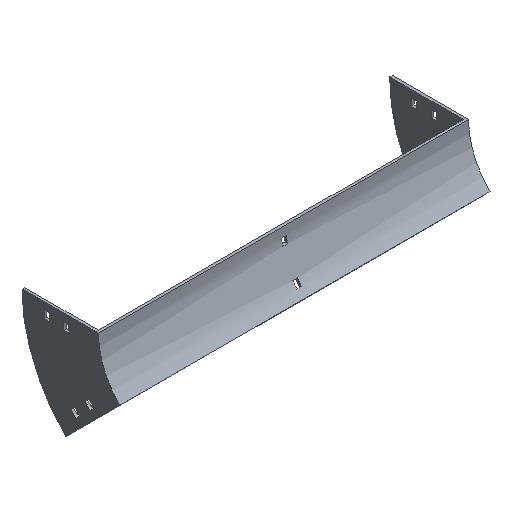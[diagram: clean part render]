
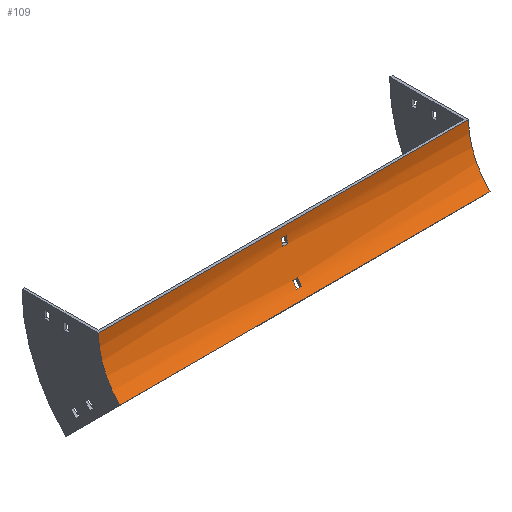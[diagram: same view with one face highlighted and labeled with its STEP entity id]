
A CAD part, isometric view. The second image highlights one B-rep face of the part: STEP entity #109.
In plain terms, the highlighted cylindrical face has radius 100 mm (diameter 200 mm), a partial arc.
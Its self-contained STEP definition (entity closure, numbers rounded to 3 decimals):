
#19 = EDGE_CURVE ( 'NONE', #1393, #1682, #462, .T. ) ;
#38 = AXIS2_PLACEMENT_3D ( 'NONE', #177, #719, #184 ) ;
#49 = CARTESIAN_POINT ( 'NONE',  ( 3.25, -0.723, -12. ) ) ;
#54 = DIRECTION ( 'NONE',  ( -1., 0., 0. ) ) ;
#56 = VERTEX_POINT ( 'NONE', #71 ) ;
#71 = CARTESIAN_POINT ( 'NONE',  ( 3.25, -21.315, -61.714 ) ) ;
#72 = CARTESIAN_POINT ( 'NONE',  ( 3.25, -100., 0. ) ) ;
#108 = DIRECTION ( 'NONE',  ( 0., 0., -1. ) ) ;
#109 = ADVANCED_FACE ( 'NONE', ( #1365, #320, #190 ), #591, .F. ) ;
#125 = EDGE_CURVE ( 'NONE', #1682, #1563, #1361, .T. ) ;
#138 = EDGE_LOOP ( 'NONE', ( #1105, #1226, #675, #1428 ) ) ;
#149 = VECTOR ( 'NONE', #1297, 1000. ) ;
#174 = AXIS2_PLACEMENT_3D ( 'NONE', #1343, #516, #830 ) ;
#176 = CARTESIAN_POINT ( 'NONE',  ( 252., -21.315, -61.714 ) ) ;
#177 = CARTESIAN_POINT ( 'NONE',  ( 252., -100., 0. ) ) ;
#184 = DIRECTION ( 'NONE',  ( 0., 0., 1. ) ) ;
#190 = FACE_BOUND ( 'NONE', #1441, .T. ) ;
#233 = LINE ( 'NONE', #780, #149 ) ;
#256 = CIRCLE ( 'NONE', #1289, 100. ) ;
#268 = VERTEX_POINT ( 'NONE', #1247 ) ;
#270 = EDGE_CURVE ( 'NONE', #425, #687, #331, .T. ) ;
#284 = CIRCLE ( 'NONE', #1471, 100. ) ;
#320 = FACE_BOUND ( 'NONE', #685, .T. ) ;
#326 = ORIENTED_EDGE ( 'NONE', *, *, #833, .F. ) ;
#331 = LINE ( 'NONE', #1392, #887 ) ;
#342 = CARTESIAN_POINT ( 'NONE',  ( 252., 0., 0. ) ) ;
#361 = DIRECTION ( 'NONE',  ( -1., 0., 0. ) ) ;
#370 = VERTEX_POINT ( 'NONE', #342 ) ;
#425 = VERTEX_POINT ( 'NONE', #1010 ) ;
#442 = CARTESIAN_POINT ( 'NONE',  ( 3.25, -2.23, -21. ) ) ;
#462 = LINE ( 'NONE', #543, #937 ) ;
#508 = ORIENTED_EDGE ( 'NONE', *, *, #1420, .T. ) ;
#516 = DIRECTION ( 'NONE',  ( -1., 0., 0. ) ) ;
#535 = EDGE_CURVE ( 'NONE', #370, #948, #1047, .T. ) ;
#543 = CARTESIAN_POINT ( 'NONE',  ( 252., -2.23, -21. ) ) ;
#551 = VERTEX_POINT ( 'NONE', #791 ) ;
#570 = EDGE_CURVE ( 'NONE', #370, #551, #233, .T. ) ;
#591 = CYLINDRICAL_SURFACE ( 'NONE', #38, 100. ) ;
#598 = ORIENTED_EDGE ( 'NONE', *, *, #19, .T. ) ;
#607 = DIRECTION ( 'NONE',  ( 1., 0., 0. ) ) ;
#618 = CARTESIAN_POINT ( 'NONE',  ( 252., -100., 0. ) ) ;
#630 = EDGE_CURVE ( 'NONE', #551, #268, #805, .T. ) ;
#669 = EDGE_CURVE ( 'NONE', #687, #732, #284, .T. ) ;
#675 = ORIENTED_EDGE ( 'NONE', *, *, #535, .F. ) ;
#685 = EDGE_LOOP ( 'NONE', ( #598, #1549, #508, #941 ) ) ;
#686 = ORIENTED_EDGE ( 'NONE', *, *, #669, .F. ) ;
#687 = VERTEX_POINT ( 'NONE', #1456 ) ;
#719 = DIRECTION ( 'NONE',  ( -1., 0., 0. ) ) ;
#732 = VERTEX_POINT ( 'NONE', #1069 ) ;
#740 = ORIENTED_EDGE ( 'NONE', *, *, #1370, .F. ) ;
#780 = CARTESIAN_POINT ( 'NONE',  ( 252., 0., 0. ) ) ;
#791 = CARTESIAN_POINT ( 'NONE',  ( -252., 0., 0. ) ) ;
#805 = CIRCLE ( 'NONE', #174, 100. ) ;
#808 = DIRECTION ( 'NONE',  ( -1., 0., 0. ) ) ;
#817 = CARTESIAN_POINT ( 'NONE',  ( 252., -29.289, -70.711 ) ) ;
#830 = DIRECTION ( 'NONE',  ( 0., 0., 1. ) ) ;
#833 = EDGE_CURVE ( 'NONE', #56, #425, #256, .T. ) ;
#857 = VECTOR ( 'NONE', #1035, 1000. ) ;
#887 = VECTOR ( 'NONE', #54, 1000. ) ;
#937 = VECTOR ( 'NONE', #808, 1000. ) ;
#941 = ORIENTED_EDGE ( 'NONE', *, *, #1115, .T. ) ;
#948 = VERTEX_POINT ( 'NONE', #1101 ) ;
#949 = CARTESIAN_POINT ( 'NONE',  ( -3.25, -2.23, -21. ) ) ;
#954 = VERTEX_POINT ( 'NONE', #49 ) ;
#989 = CARTESIAN_POINT ( 'NONE',  ( 252., -0.723, -12. ) ) ;
#1010 = CARTESIAN_POINT ( 'NONE',  ( 3.25, -16.017, -54.285 ) ) ;
#1020 = VECTOR ( 'NONE', #1499, 1000. ) ;
#1025 = DIRECTION ( 'NONE',  ( 0., 0., 1. ) ) ;
#1035 = DIRECTION ( 'NONE',  ( -1., 0., 0. ) ) ;
#1047 = CIRCLE ( 'NONE', #1206, 100. ) ;
#1066 = CARTESIAN_POINT ( 'NONE',  ( -3.25, -0.723, -12. ) ) ;
#1069 = CARTESIAN_POINT ( 'NONE',  ( -3.25, -21.315, -61.714 ) ) ;
#1090 = DIRECTION ( 'NONE',  ( -1., 0., 0. ) ) ;
#1101 = CARTESIAN_POINT ( 'NONE',  ( 252., -29.289, -70.711 ) ) ;
#1105 = ORIENTED_EDGE ( 'NONE', *, *, #630, .T. ) ;
#1115 = EDGE_CURVE ( 'NONE', #954, #1393, #1264, .T. ) ;
#1130 = DIRECTION ( 'NONE',  ( 0., 0., 1. ) ) ;
#1152 = LINE ( 'NONE', #989, #1020 ) ;
#1180 = AXIS2_PLACEMENT_3D ( 'NONE', #1252, #1514, #1130 ) ;
#1181 = EDGE_CURVE ( 'NONE', #948, #268, #1195, .T. ) ;
#1184 = AXIS2_PLACEMENT_3D ( 'NONE', #1302, #1659, #108 ) ;
#1195 = LINE ( 'NONE', #817, #857 ) ;
#1206 = AXIS2_PLACEMENT_3D ( 'NONE', #618, #361, #1643 ) ;
#1218 = CARTESIAN_POINT ( 'NONE',  ( -3.25, -100., 0. ) ) ;
#1226 = ORIENTED_EDGE ( 'NONE', *, *, #1181, .F. ) ;
#1247 = CARTESIAN_POINT ( 'NONE',  ( -252., -29.289, -70.711 ) ) ;
#1252 = CARTESIAN_POINT ( 'NONE',  ( -3.25, -100., 0. ) ) ;
#1264 = CIRCLE ( 'NONE', #1184, 100. ) ;
#1289 = AXIS2_PLACEMENT_3D ( 'NONE', #72, #607, #1025 ) ;
#1297 = DIRECTION ( 'NONE',  ( -1., 0., 0. ) ) ;
#1302 = CARTESIAN_POINT ( 'NONE',  ( 3.25, -100., 0. ) ) ;
#1343 = CARTESIAN_POINT ( 'NONE',  ( -252., -100., 0. ) ) ;
#1361 = CIRCLE ( 'NONE', #1180, 100. ) ;
#1365 = FACE_OUTER_BOUND ( 'NONE', #138, .T. ) ;
#1370 = EDGE_CURVE ( 'NONE', #732, #56, #1616, .T. ) ;
#1392 = CARTESIAN_POINT ( 'NONE',  ( 252., -16.017, -54.285 ) ) ;
#1393 = VERTEX_POINT ( 'NONE', #442 ) ;
#1420 = EDGE_CURVE ( 'NONE', #1563, #954, #1152, .T. ) ;
#1428 = ORIENTED_EDGE ( 'NONE', *, *, #570, .T. ) ;
#1441 = EDGE_LOOP ( 'NONE', ( #686, #1510, #326, #740 ) ) ;
#1445 = DIRECTION ( 'NONE',  ( 0., 0., -1. ) ) ;
#1456 = CARTESIAN_POINT ( 'NONE',  ( -3.25, -16.017, -54.285 ) ) ;
#1471 = AXIS2_PLACEMENT_3D ( 'NONE', #1218, #1090, #1445 ) ;
#1499 = DIRECTION ( 'NONE',  ( 1., 0., 0. ) ) ;
#1510 = ORIENTED_EDGE ( 'NONE', *, *, #270, .F. ) ;
#1514 = DIRECTION ( 'NONE',  ( 1., 0., 0. ) ) ;
#1527 = VECTOR ( 'NONE', #1532, 1000. ) ;
#1532 = DIRECTION ( 'NONE',  ( 1., 0., 0. ) ) ;
#1549 = ORIENTED_EDGE ( 'NONE', *, *, #125, .T. ) ;
#1563 = VERTEX_POINT ( 'NONE', #1066 ) ;
#1616 = LINE ( 'NONE', #176, #1527 ) ;
#1643 = DIRECTION ( 'NONE',  ( 0., 0., 1. ) ) ;
#1659 = DIRECTION ( 'NONE',  ( -1., 0., 0. ) ) ;
#1682 = VERTEX_POINT ( 'NONE', #949 ) ;
